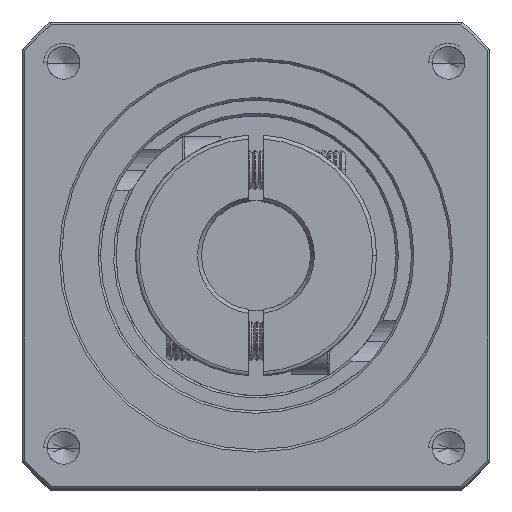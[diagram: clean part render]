
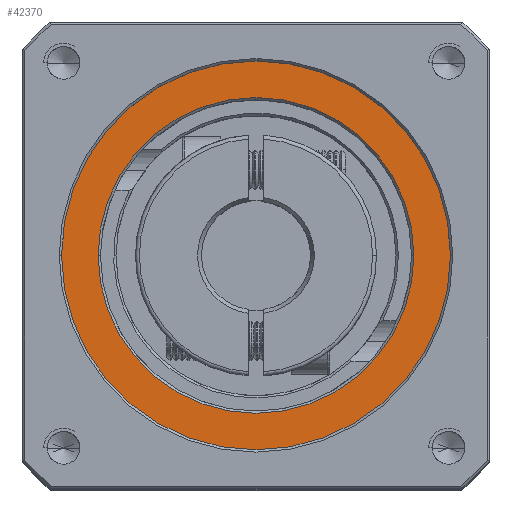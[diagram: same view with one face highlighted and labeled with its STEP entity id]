
A CAD part, top view. The second image highlights one B-rep face of the part: STEP entity #42370.
In plain terms, the highlighted planar face has unit normal (0, 0, 1).
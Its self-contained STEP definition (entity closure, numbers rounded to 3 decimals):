
#5128 = ORIENTED_EDGE ( 'NONE', *, *, #47374, .T. ) ;
#7871 = CIRCLE ( 'NONE', #81030, 20.3 ) ;
#11660 = EDGE_LOOP ( 'NONE', ( #45992, #5128 ) ) ;
#16597 = CARTESIAN_POINT ( 'NONE',  ( -59.679, 25.271, 13.438 ) ) ;
#16983 = VERTEX_POINT ( 'NONE', #72720 ) ;
#20171 = DIRECTION ( 'NONE',  ( 1., 0., 0. ) ) ;
#20656 = CIRCLE ( 'NONE', #35801, 25. ) ;
#21497 = DIRECTION ( 'NONE',  ( 1., 0., 0. ) ) ;
#26255 = CARTESIAN_POINT ( 'NONE',  ( -59.679, 25.271, 13.438 ) ) ;
#30048 = DIRECTION ( 'NONE',  ( 0., 0., -1. ) ) ;
#33257 = ORIENTED_EDGE ( 'NONE', *, *, #98084, .T. ) ;
#35801 = AXIS2_PLACEMENT_3D ( 'NONE', #16597, #92256, #59772 ) ;
#37800 = CARTESIAN_POINT ( 'NONE',  ( -59.679, 25.271, 13.438 ) ) ;
#38244 = CIRCLE ( 'NONE', #38256, 25. ) ;
#38256 = AXIS2_PLACEMENT_3D ( 'NONE', #74177, #108294, #91814 ) ;
#42370 = ADVANCED_FACE ( 'NONE', ( #95040, #47631 ), #100657, .T. ) ;
#44995 = CARTESIAN_POINT ( 'NONE',  ( -34.679, 25.271, 13.438 ) ) ;
#45992 = ORIENTED_EDGE ( 'NONE', *, *, #76326, .T. ) ;
#47374 = EDGE_CURVE ( 'NONE', #16983, #62026, #7871, .T. ) ;
#47631 = FACE_OUTER_BOUND ( 'NONE', #80423, .T. ) ;
#53324 = AXIS2_PLACEMENT_3D ( 'NONE', #26255, #86302, #102090 ) ;
#54183 = DIRECTION ( 'NONE',  ( 0., 0., -1. ) ) ;
#59772 = DIRECTION ( 'NONE',  ( 1., 0., 0. ) ) ;
#62026 = VERTEX_POINT ( 'NONE', #97195 ) ;
#63193 = VERTEX_POINT ( 'NONE', #44995 ) ;
#72231 = ORIENTED_EDGE ( 'NONE', *, *, #89121, .T. ) ;
#72720 = CARTESIAN_POINT ( 'NONE',  ( -79.979, 25.271, 13.438 ) ) ;
#74177 = CARTESIAN_POINT ( 'NONE',  ( -59.679, 25.271, 13.438 ) ) ;
#75000 = AXIS2_PLACEMENT_3D ( 'NONE', #95394, #54183, #20171 ) ;
#76326 = EDGE_CURVE ( 'NONE', #62026, #16983, #101429, .T. ) ;
#80423 = EDGE_LOOP ( 'NONE', ( #33257, #72231 ) ) ;
#81030 = AXIS2_PLACEMENT_3D ( 'NONE', #37800, #30048, #21497 ) ;
#86241 = VERTEX_POINT ( 'NONE', #101480 ) ;
#86302 = DIRECTION ( 'NONE',  ( 0., 0., 1. ) ) ;
#89121 = EDGE_CURVE ( 'NONE', #86241, #63193, #38244, .T. ) ;
#91814 = DIRECTION ( 'NONE',  ( 1., 0., 0. ) ) ;
#92256 = DIRECTION ( 'NONE',  ( 0., 0., 1. ) ) ;
#95040 = FACE_BOUND ( 'NONE', #11660, .T. ) ;
#95394 = CARTESIAN_POINT ( 'NONE',  ( -59.679, 25.271, 13.438 ) ) ;
#97195 = CARTESIAN_POINT ( 'NONE',  ( -39.379, 25.271, 13.438 ) ) ;
#98084 = EDGE_CURVE ( 'NONE', #63193, #86241, #20656, .T. ) ;
#100657 = PLANE ( 'NONE',  #53324 ) ;
#101429 = CIRCLE ( 'NONE', #75000, 20.3 ) ;
#101480 = CARTESIAN_POINT ( 'NONE',  ( -84.679, 25.271, 13.438 ) ) ;
#102090 = DIRECTION ( 'NONE',  ( 1., 0., 0. ) ) ;
#108294 = DIRECTION ( 'NONE',  ( 0., 0., 1. ) ) ;
